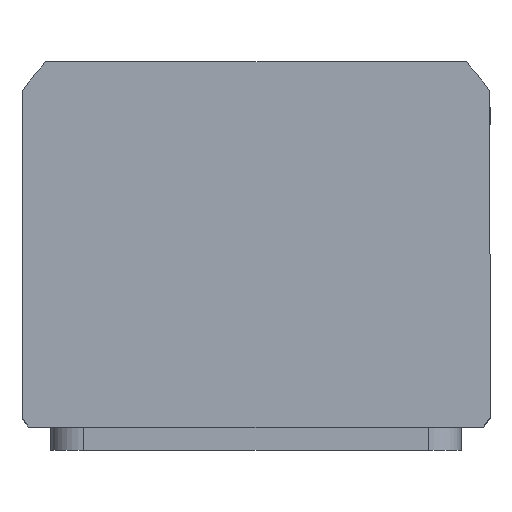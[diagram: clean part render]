
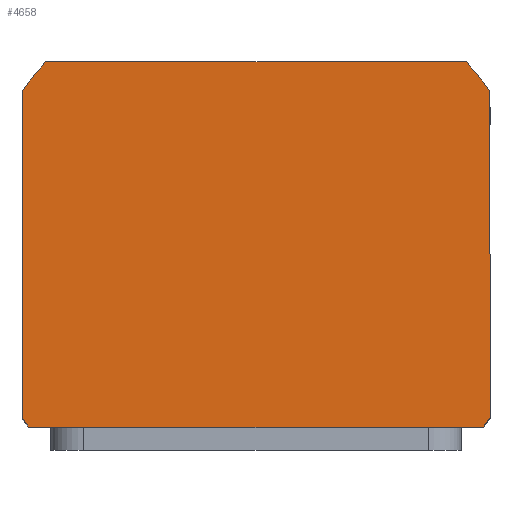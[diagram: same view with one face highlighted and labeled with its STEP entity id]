
A CAD part, top view. The second image highlights one B-rep face of the part: STEP entity #4658.
In plain terms, the highlighted planar face has unit normal (0, 0, 1) as drawn and (0, 0, -1) by its records, which use the part's own axes.
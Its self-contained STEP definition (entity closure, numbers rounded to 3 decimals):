
#123 = DIRECTION ( 'NONE',  ( 1., 0., 0. ) ) ;
#330 = VERTEX_POINT ( 'NONE', #8463 ) ;
#697 = DIRECTION ( 'NONE',  ( 0., 0., 1. ) ) ;
#815 = CIRCLE ( 'NONE', #14044, 69.5 ) ;
#1054 = VECTOR ( 'NONE', #1424, 1000. ) ;
#1424 = DIRECTION ( 'NONE',  ( -1., 0., 0. ) ) ;
#2100 = EDGE_CURVE ( 'NONE', #9919, #10840, #15453, .T. ) ;
#2567 = AXIS2_PLACEMENT_3D ( 'NONE', #16181, #697, #10570 ) ;
#2998 = DIRECTION ( 'NONE',  ( 1., 0., 0. ) ) ;
#3064 = VERTEX_POINT ( 'NONE', #9286 ) ;
#3508 = ORIENTED_EDGE ( 'NONE', *, *, #8265, .F. ) ;
#3513 = AXIS2_PLACEMENT_3D ( 'NONE', #12376, #3882, #13781 ) ;
#3882 = DIRECTION ( 'NONE',  ( 0., 0., 1. ) ) ;
#3949 = ORIENTED_EDGE ( 'NONE', *, *, #4883, .F. ) ;
#4049 = ORIENTED_EDGE ( 'NONE', *, *, #8611, .F. ) ;
#4098 = FACE_OUTER_BOUND ( 'NONE', #15359, .T. ) ;
#4285 = ORIENTED_EDGE ( 'NONE', *, *, #13082, .F. ) ;
#4625 = AXIS2_PLACEMENT_3D ( 'NONE', #17025, #8566, #123 ) ;
#4658 = ADVANCED_FACE ( 'NONE', ( #4098 ), #13354, .F. ) ;
#4824 = CARTESIAN_POINT ( 'NONE',  ( 0., 2.5, 0. ) ) ;
#4883 = EDGE_CURVE ( 'NONE', #10840, #5051, #9844, .T. ) ;
#5020 = VECTOR ( 'NONE', #2998, 1000. ) ;
#5051 = VERTEX_POINT ( 'NONE', #17154 ) ;
#6242 = DIRECTION ( 'NONE',  ( 1., 0., 0. ) ) ;
#6520 = CARTESIAN_POINT ( 'NONE',  ( 0., 2.5, 0. ) ) ;
#6810 = CARTESIAN_POINT ( 'NONE',  ( -57., 42.265, 0. ) ) ;
#7068 = AXIS2_PLACEMENT_3D ( 'NONE', #4824, #14710, #6242 ) ;
#7262 = CARTESIAN_POINT ( 'NONE',  ( -57., -44.5, 0. ) ) ;
#7501 = VERTEX_POINT ( 'NONE', #6810 ) ;
#7859 = DIRECTION ( 'NONE',  ( 0., -1., 0. ) ) ;
#7951 = DIRECTION ( 'NONE',  ( 1., 0., 0. ) ) ;
#8265 = EDGE_CURVE ( 'NONE', #7501, #330, #8743, .T. ) ;
#8463 = CARTESIAN_POINT ( 'NONE',  ( -57., -37.265, 0. ) ) ;
#8566 = DIRECTION ( 'NONE',  ( 0., 0., 1. ) ) ;
#8611 = EDGE_CURVE ( 'NONE', #9692, #7501, #815, .T. ) ;
#8743 = LINE ( 'NONE', #10714, #15813 ) ;
#9255 = CIRCLE ( 'NONE', #7068, 69.5 ) ;
#9256 = ORIENTED_EDGE ( 'NONE', *, *, #17955, .F. ) ;
#9286 = CARTESIAN_POINT ( 'NONE',  ( -51.198, -44.5, 0. ) ) ;
#9692 = VERTEX_POINT ( 'NONE', #14129 ) ;
#9835 = LINE ( 'NONE', #7262, #5020 ) ;
#9844 = CIRCLE ( 'NONE', #3513, 69.5 ) ;
#9879 = CARTESIAN_POINT ( 'NONE',  ( -57., 44.5, 0. ) ) ;
#9919 = VERTEX_POINT ( 'NONE', #15933 ) ;
#10016 = ORIENTED_EDGE ( 'NONE', *, *, #2100, .F. ) ;
#10117 = DIRECTION ( 'NONE',  ( 0., 1., 0. ) ) ;
#10144 = ORIENTED_EDGE ( 'NONE', *, *, #16603, .F. ) ;
#10380 = CARTESIAN_POINT ( 'NONE',  ( 57., 44.5, 0. ) ) ;
#10570 = DIRECTION ( 'NONE',  ( 1., 0., 0. ) ) ;
#10714 = CARTESIAN_POINT ( 'NONE',  ( -57., 44.5, 0. ) ) ;
#10840 = VERTEX_POINT ( 'NONE', #17021 ) ;
#12376 = CARTESIAN_POINT ( 'NONE',  ( 0., 2.5, 0. ) ) ;
#13082 = EDGE_CURVE ( 'NONE', #17734, #9919, #9255, .T. ) ;
#13211 = LINE ( 'NONE', #9879, #1054 ) ;
#13354 = PLANE ( 'NONE',  #2567 ) ;
#13781 = DIRECTION ( 'NONE',  ( 1., 0., 0. ) ) ;
#14044 = AXIS2_PLACEMENT_3D ( 'NONE', #6520, #16414, #7951 ) ;
#14129 = CARTESIAN_POINT ( 'NONE',  ( -55.374, 44.5, 0. ) ) ;
#14167 = CARTESIAN_POINT ( 'NONE',  ( 51.198, -44.5, 0. ) ) ;
#14710 = DIRECTION ( 'NONE',  ( 0., 0., 1. ) ) ;
#14958 = CIRCLE ( 'NONE', #4625, 69.5 ) ;
#15359 = EDGE_LOOP ( 'NONE', ( #3949, #10016, #4285, #9256, #17963, #3508, #4049, #10144 ) ) ;
#15453 = LINE ( 'NONE', #10380, #16359 ) ;
#15813 = VECTOR ( 'NONE', #7859, 1000. ) ;
#15933 = CARTESIAN_POINT ( 'NONE',  ( 57., -37.265, 0. ) ) ;
#16181 = CARTESIAN_POINT ( 'NONE',  ( 0., 0., 0. ) ) ;
#16359 = VECTOR ( 'NONE', #10117, 1000. ) ;
#16414 = DIRECTION ( 'NONE',  ( 0., 0., 1. ) ) ;
#16603 = EDGE_CURVE ( 'NONE', #5051, #9692, #13211, .T. ) ;
#17021 = CARTESIAN_POINT ( 'NONE',  ( 57., 42.265, 0. ) ) ;
#17025 = CARTESIAN_POINT ( 'NONE',  ( 0., 2.5, 0. ) ) ;
#17154 = CARTESIAN_POINT ( 'NONE',  ( 55.374, 44.5, 0. ) ) ;
#17586 = EDGE_CURVE ( 'NONE', #330, #3064, #14958, .T. ) ;
#17734 = VERTEX_POINT ( 'NONE', #14167 ) ;
#17955 = EDGE_CURVE ( 'NONE', #3064, #17734, #9835, .T. ) ;
#17963 = ORIENTED_EDGE ( 'NONE', *, *, #17586, .F. ) ;
